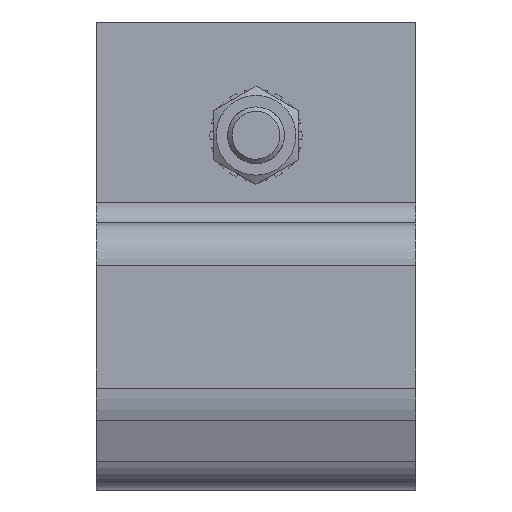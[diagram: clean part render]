
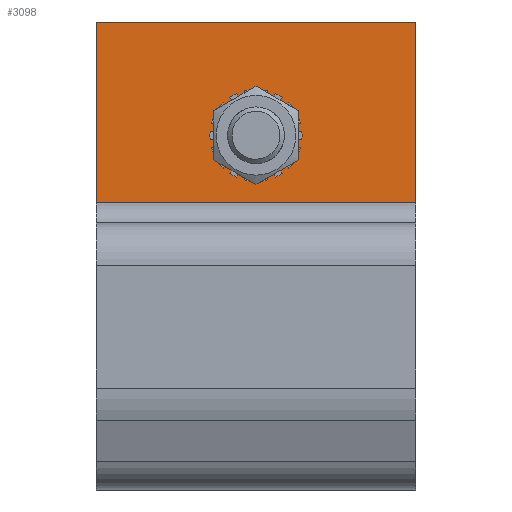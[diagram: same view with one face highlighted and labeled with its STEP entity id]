
A CAD part, top view. The second image highlights one B-rep face of the part: STEP entity #3098.
In plain terms, the highlighted planar face has unit normal (0, 0, 1) as drawn and (0, 0, -1) by its records, which use the part's own axes.
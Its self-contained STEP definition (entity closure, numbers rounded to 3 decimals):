
#85=FACE_BOUND('',#414,.T.);
#132=PLANE('',#3305);
#227=FACE_OUTER_BOUND('',#413,.T.);
#413=EDGE_LOOP('',(#2195,#2196,#2197,#2198));
#414=EDGE_LOOP('',(#2199));
#593=CIRCLE('',#3299,8.5);
#811=LINE('',#4774,#1069);
#812=LINE('',#4782,#1070);
#815=LINE('',#4788,#1073);
#818=LINE('',#4793,#1076);
#1069=VECTOR('',#3776,90.);
#1070=VECTOR('',#3785,51.);
#1073=VECTOR('',#3790,51.);
#1076=VECTOR('',#3795,90.);
#1310=VERTEX_POINT('',#4763);
#1311=VERTEX_POINT('',#4767);
#1312=VERTEX_POINT('',#4776);
#1314=VERTEX_POINT('',#4781);
#1316=VERTEX_POINT('',#4787);
#1646=EDGE_CURVE('',#1311,#1310,#811,.T.);
#1647=EDGE_CURVE('',#1312,#1312,#593,.T.);
#1649=EDGE_CURVE('',#1314,#1311,#812,.T.);
#1652=EDGE_CURVE('',#1310,#1316,#815,.T.);
#1655=EDGE_CURVE('',#1316,#1314,#818,.T.);
#2195=ORIENTED_EDGE('',*,*,#1649,.F.);
#2196=ORIENTED_EDGE('',*,*,#1655,.F.);
#2197=ORIENTED_EDGE('',*,*,#1652,.F.);
#2198=ORIENTED_EDGE('',*,*,#1646,.F.);
#2199=ORIENTED_EDGE('',*,*,#1647,.T.);
#3098=ADVANCED_FACE('',(#227,#85),#132,.F.);
#3299=AXIS2_PLACEMENT_3D('',#4777,#3779,#3780);
#3305=AXIS2_PLACEMENT_3D('',#4796,#3799,#3800);
#3776=DIRECTION('',(1.,0.,0.));
#3779=DIRECTION('center_axis',(0.,0.,1.));
#3780=DIRECTION('ref_axis',(-1.,0.,0.));
#3785=DIRECTION('',(0.,-1.,0.));
#3790=DIRECTION('',(0.,1.,0.));
#3795=DIRECTION('',(-1.,0.,0.));
#3799=DIRECTION('center_axis',(0.,0.,1.));
#3800=DIRECTION('ref_axis',(1.,0.,0.));
#4763=CARTESIAN_POINT('',(45.,-19.,-6.));
#4767=CARTESIAN_POINT('',(-45.,-19.,-6.));
#4774=CARTESIAN_POINT('',(45.,-19.,-6.));
#4776=CARTESIAN_POINT('',(8.5,0.,-6.));
#4777=CARTESIAN_POINT('Origin',(0.,0.,-6.));
#4781=CARTESIAN_POINT('',(-45.,32.,-6.));
#4782=CARTESIAN_POINT('',(-45.,-19.,-6.));
#4787=CARTESIAN_POINT('',(45.,32.,-6.));
#4788=CARTESIAN_POINT('',(45.,32.,-6.));
#4793=CARTESIAN_POINT('',(-45.,32.,-6.));
#4796=CARTESIAN_POINT('Origin',(0.,6.5,-6.));
